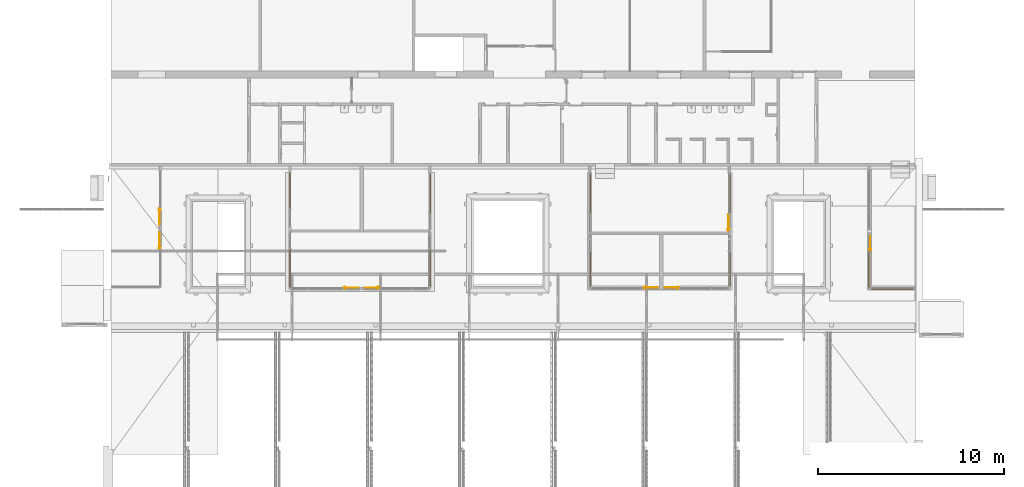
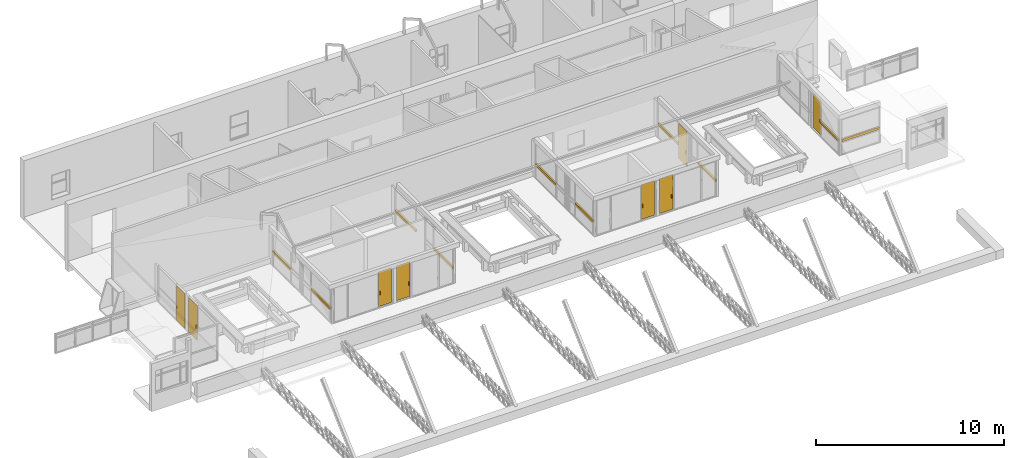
# One storey, part 148 of 153: 10 curtain walls, 8 doors, 16 elements without a shape of their own.
"""IFC4 building model written with IfcOpenShell, lengths in metres."""

from ifc_helpers import new_model, entity, si_unit, converted_unit, derived_unit, direction, frame, origin, place, context, subcontext, project, spatial, indexed_curve, outline, extrude, source, transform, mapped, material, constituent, constituent_set, type_object, type_shapes, element, aggregate, save


model = new_model("IFC4")

# Units and contexts
model_context = context("Model", 3, precision=1e-05, world=origin(), true_north=direction((6.123031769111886e-17, 1.0)))
body_context = subcontext(model_context, "Body", "Model", "MODEL_VIEW")
ifc_project = project(units=[si_unit("LENGTHUNIT", "METRE"), si_unit("AREAUNIT", "SQUARE_METRE"), si_unit("VOLUMEUNIT", "CUBIC_METRE"), converted_unit("PLANEANGLEUNIT", "DEGREE", entity("IfcRatioMeasure", 0.017453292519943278), si_unit("PLANEANGLEUNIT", "RADIAN"), dimensions=[0, 0, 0, 0, 0, 0, 0]), si_unit("MASSUNIT", "GRAM", prefix="KILO"), derived_unit("MASSDENSITYUNIT", [(si_unit("MASSUNIT", "GRAM", prefix="KILO"), 1), (si_unit("LENGTHUNIT", "METRE"), -3)]), derived_unit("MOMENTOFINERTIAUNIT", [(si_unit("LENGTHUNIT", "METRE"), 4)]), si_unit("TIMEUNIT", "SECOND"), si_unit("FREQUENCYUNIT", "HERTZ"), si_unit("THERMODYNAMICTEMPERATUREUNIT", "DEGREE_CELSIUS"), derived_unit("THERMALTRANSMITTANCEUNIT", [(si_unit("MASSUNIT", "GRAM", prefix="KILO"), 1), (si_unit("THERMODYNAMICTEMPERATUREUNIT", "KELVIN"), -1), (si_unit("TIMEUNIT", "SECOND"), -3)]), derived_unit("VOLUMETRICFLOWRATEUNIT", [(si_unit("LENGTHUNIT", "METRE"), 3), (si_unit("TIMEUNIT", "SECOND"), -1)]), derived_unit("MASSFLOWRATEUNIT", [(si_unit("MASSUNIT", "GRAM", prefix="KILO"), 1), (si_unit("TIMEUNIT", "SECOND"), -1)]), derived_unit("ROTATIONALFREQUENCYUNIT", [(si_unit("TIMEUNIT", "SECOND"), -1)]), si_unit("ELECTRICCURRENTUNIT", "AMPERE"), si_unit("ELECTRICVOLTAGEUNIT", "VOLT"), si_unit("POWERUNIT", "WATT"), si_unit("FORCEUNIT", "NEWTON", prefix="KILO"), si_unit("ILLUMINANCEUNIT", "LUX"), si_unit("LUMINOUSFLUXUNIT", "LUMEN"), si_unit("LUMINOUSINTENSITYUNIT", "CANDELA"), derived_unit("USERDEFINED", [(si_unit("MASSUNIT", "GRAM", prefix="KILO"), -1), (si_unit("LENGTHUNIT", "METRE"), -2), (si_unit("TIMEUNIT", "SECOND"), 3), (si_unit("LUMINOUSFLUXUNIT", "LUMEN"), 1)]), derived_unit("SOUNDPOWERUNIT", [(si_unit("MASSUNIT", "GRAM", prefix="KILO"), 1), (si_unit("LENGTHUNIT", "METRE"), 2), (si_unit("TIMEUNIT", "SECOND"), -3)]), derived_unit("SOUNDPRESSUREUNIT", [(si_unit("MASSUNIT", "GRAM", prefix="KILO"), 1), (si_unit("LENGTHUNIT", "METRE"), -1), (si_unit("TIMEUNIT", "SECOND"), -2)]), derived_unit("LINEARVELOCITYUNIT", [(si_unit("LENGTHUNIT", "METRE"), 1), (si_unit("TIMEUNIT", "SECOND"), -1)]), si_unit("PRESSUREUNIT", "PASCAL"), derived_unit("USERDEFINED", [(si_unit("LENGTHUNIT", "METRE"), -2), (si_unit("MASSUNIT", "GRAM", prefix="KILO"), 1), (si_unit("TIMEUNIT", "SECOND"), -2)]), derived_unit("LINEARFORCEUNIT", [(si_unit("MASSUNIT", "GRAM", prefix="KILO"), 1), (si_unit("LENGTHUNIT", "METRE"), 1), (si_unit("TIMEUNIT", "SECOND"), -2), (si_unit("LENGTHUNIT", "METRE"), -1)]), derived_unit("PLANARFORCEUNIT", [(si_unit("MASSUNIT", "GRAM", prefix="KILO"), 1), (si_unit("LENGTHUNIT", "METRE"), 1), (si_unit("TIMEUNIT", "SECOND"), -2), (si_unit("LENGTHUNIT", "METRE"), -2)])], contexts=[model_context])

# Site, building, storey
site_placement = place(None, origin())
site = spatial("IfcSite", under=ifc_project, at=site_placement, Name="Superficie", CompositionType="ELEMENT")
building_placement = place(site_placement, origin())
building = spatial("IfcBuilding", under=site, at=building_placement, CompositionType="ELEMENT")
storey_placement = place(building_placement, frame((0.0, 0.0, 3.5999999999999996)))
storey = spatial("IfcBuildingStorey", under=building, at=storey_placement, Name="Nivel 1", CompositionType="ELEMENT", Elevation=3.5999999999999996)

# Curtain walls
curtain_wall_type_1 = type_object("IfcCurtainWallType", Name="Muro cortina:Muro cortina - simple", PredefinedType="NOTDEFINED")
curtain_wall_1_placement = place(storey_placement, frame((0.0, 0.0, -3.5999999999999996)))
curtain_wall_1 = element("IfcCurtainWall", 1, at=curtain_wall_1_placement, inside=storey, type_object=curtain_wall_type_1, Name="Muro cortina:Muro cortina - simple", ObjectType="Muro cortina:Muro cortina - simple", PredefinedType="NOTDEFINED")
ifc_material_1 = material(Name="<Unnamed>")
curtain_wall_type_2 = type_object("IfcCurtainWallType", Name="Muro básico:Por defecto - 10 cm", PredefinedType="NOTDEFINED")
curtain_wall_2_placement = place(storey_placement, frame((18.22679901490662, -0.9636067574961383, 0.855)))
curtain_wall_2 = element("IfcCurtainWall", 2, at=curtain_wall_2_placement, type_object=curtain_wall_type_2, material=ifc_material_1, Name="Muro básico:Por defecto - 10 cm", ObjectType="Muro básico:Por defecto - 10 cm", PredefinedType="NOTDEFINED", context=body_context, shape_type="SweptSolid", body=[
    extrude(outline(indexed_curve([(2.2950000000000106, 0.049999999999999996), (-1.6196730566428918e-16, 0.05), (1.6196730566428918e-16, -0.05), (2.2950000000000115, -0.05000000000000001), (2.2950000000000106, 0.049999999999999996)], self_intersect=False)), origin(), (0.0, 0.0, 1.0), 0.15000000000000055),
])
aggregate(curtain_wall_1, [curtain_wall_2])

curtain_wall_3_placement = place(storey_placement, frame((0.0, 0.0, -3.5999999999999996)))
curtain_wall_3 = element("IfcCurtainWall", 3, at=curtain_wall_3_placement, inside=storey, type_object=curtain_wall_type_1, Name="Muro cortina:Muro cortina - simple", ObjectType="Muro cortina:Muro cortina - simple", PredefinedType="NOTDEFINED")
curtain_wall_4_placement = place(storey_placement, frame((18.12679901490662, -0.8847671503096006, 0.855), z_axis=(0.0, 0.0, 1.0), x_axis=(0.0, 1.0, 0.0)))
curtain_wall_4 = element("IfcCurtainWall", 4, at=curtain_wall_4_placement, type_object=curtain_wall_type_2, material=ifc_material_1, Name="Muro básico:Por defecto - 10 cm", ObjectType="Muro básico:Por defecto - 10 cm", PredefinedType="NOTDEFINED", context=body_context, shape_type="SweptSolid", body=[
    extrude(outline(indexed_curve([(1.8950000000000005, 0.04999999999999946), (0.0, 0.04999999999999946), (0.0, -0.04999999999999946), (1.8950000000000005, -0.04999999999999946), (1.8950000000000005, 0.04999999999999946)], self_intersect=False)), origin(), (0.0, 0.0, 1.0), 0.15000000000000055),
])

curtain_wall_5_placement = place(storey_placement, frame((0.0, 0.0, -3.5999999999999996)))
curtain_wall_5 = element("IfcCurtainWall", 5, at=curtain_wall_5_placement, inside=storey, type_object=curtain_wall_type_1, Name="Muro cortina:Muro cortina - simple", ObjectType="Muro cortina:Muro cortina - simple", PredefinedType="NOTDEFINED")
curtain_wall_6_placement = place(storey_placement, frame((10.596799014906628, -0.8729168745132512, 0.855), z_axis=(0.0, 0.0, 1.0), x_axis=(0.0, 1.0, 0.0)))
curtain_wall_6 = element("IfcCurtainWall", 6, at=curtain_wall_6_placement, type_object=curtain_wall_type_2, material=ifc_material_1, Name="Muro básico:Por defecto - 10 cm", ObjectType="Muro básico:Por defecto - 10 cm", PredefinedType="NOTDEFINED", context=body_context, shape_type="SweptSolid", body=[
    extrude(outline(indexed_curve([(1.8950000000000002, 0.04999999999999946), (0.0, 0.04999999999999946), (0.0, -0.04999999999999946), (1.8950000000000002, -0.04999999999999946), (1.8950000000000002, 0.04999999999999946)], self_intersect=False)), origin(), (0.0, 0.0, 1.0), 0.15000000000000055),
])
aggregate(curtain_wall_5, [curtain_wall_6])

curtain_wall_7_placement = place(storey_placement, frame((0.0, 0.0, -3.5999999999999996)))
curtain_wall_7 = element("IfcCurtainWall", 7, at=curtain_wall_7_placement, inside=storey, type_object=curtain_wall_type_1, Name="Muro cortina:Muro cortina - simple", ObjectType="Muro cortina:Muro cortina - simple", PredefinedType="NOTDEFINED")
curtain_wall_8_placement = place(storey_placement, frame((10.596799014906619, 3.0820831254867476, 0.855), z_axis=(0.0, 0.0, 1.0), x_axis=(0.0, 1.0, 0.0)))
curtain_wall_8 = element("IfcCurtainWall", 8, at=curtain_wall_8_placement, type_object=curtain_wall_type_2, material=ifc_material_1, Name="Muro básico:Por defecto - 10 cm", ObjectType="Muro básico:Por defecto - 10 cm", PredefinedType="NOTDEFINED", context=body_context, shape_type="SweptSolid", body=[
    extrude(outline(indexed_curve([(2.1443101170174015, 0.049999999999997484), (6.015928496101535e-17, 0.04999999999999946), (-6.015928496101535e-17, -0.04999999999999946), (2.1443101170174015, -0.05000000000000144), (2.1443101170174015, 0.049999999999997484)], self_intersect=False)), origin(), (0.0, 0.0, 1.0), 0.15000000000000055),
])

curtain_wall_9_placement = place(storey_placement, frame((0.0, 0.0, -3.5999999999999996)))
curtain_wall_9 = element("IfcCurtainWall", 9, at=curtain_wall_9_placement, inside=storey, type_object=curtain_wall_type_1, Name="Muro cortina:Muro cortina - simple", ObjectType="Muro cortina:Muro cortina - simple", PredefinedType="NOTDEFINED")
curtain_wall_10_placement = place(storey_placement, frame((3.091799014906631, -0.8729168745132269, 0.855), z_axis=(0.0, 0.0, 1.0), x_axis=(0.0, 1.0, 0.0)))
curtain_wall_10 = element("IfcCurtainWall", 10, at=curtain_wall_10_placement, type_object=curtain_wall_type_2, material=ifc_material_1, Name="Muro básico:Por defecto - 10 cm", ObjectType="Muro básico:Por defecto - 10 cm", PredefinedType="NOTDEFINED", context=body_context, shape_type="SweptSolid", body=[
    extrude(outline(indexed_curve([(1.8950000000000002, 0.05), (0.0, 0.05), (0.0, -0.05), (1.8950000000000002, -0.05), (1.8950000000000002, 0.05)], self_intersect=False)), origin(), (0.0, 0.0, 1.0), 0.15000000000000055),
])
aggregate(curtain_wall_9, [curtain_wall_10])

curtain_wall_11_placement = place(storey_placement, frame((0.0, 0.0, -3.5999999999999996)))
curtain_wall_11 = element("IfcCurtainWall", 11, at=curtain_wall_11_placement, inside=storey, type_object=curtain_wall_type_1, Name="Muro cortina:Muro cortina - simple", ObjectType="Muro cortina:Muro cortina - simple", PredefinedType="NOTDEFINED")
curtain_wall_12_placement = place(storey_placement, frame((3.0917990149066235, 3.0820831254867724, 0.855), z_axis=(0.0, 0.0, 1.0), x_axis=(0.0, 1.0, 0.0)))
curtain_wall_12 = element("IfcCurtainWall", 12, at=curtain_wall_12_placement, type_object=curtain_wall_type_2, material=ifc_material_1, Name="Muro básico:Por defecto - 10 cm", ObjectType="Muro básico:Por defecto - 10 cm", PredefinedType="NOTDEFINED", context=body_context, shape_type="SweptSolid", body=[
    extrude(outline(indexed_curve([(2.144310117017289, 0.05000000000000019), (6.015928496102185e-17, 0.05), (-6.015928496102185e-17, -0.05), (2.144310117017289, -0.049999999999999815), (2.144310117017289, 0.05000000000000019)], self_intersect=False)), origin(), (0.0, 0.0, 1.0), 0.15000000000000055),
])
aggregate(curtain_wall_11, [curtain_wall_12])

curtain_wall_13_placement = place(storey_placement, frame((0.0, 0.0, -3.5999999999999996)))
curtain_wall_13 = element("IfcCurtainWall", 13, at=curtain_wall_13_placement, inside=storey, type_object=curtain_wall_type_1, Name="Muro cortina:Muro cortina - simple", ObjectType="Muro cortina:Muro cortina - simple", PredefinedType="NOTDEFINED")
curtain_wall_14_placement = place(storey_placement, frame((-5.5182009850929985, -0.884767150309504, 0.855), z_axis=(0.0, 0.0, 1.0), x_axis=(0.0, 1.0, 0.0)))
curtain_wall_14 = element("IfcCurtainWall", 14, at=curtain_wall_14_placement, type_object=curtain_wall_type_2, material=ifc_material_1, Name="Muro básico:Por defecto - 10 cm", ObjectType="Muro básico:Por defecto - 10 cm", PredefinedType="NOTDEFINED", context=body_context, shape_type="SweptSolid", body=[
    extrude(outline(indexed_curve([(2.04116039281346, 0.04999999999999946), (0.0, 0.04999999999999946), (0.0, -0.04999999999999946), (2.04116039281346, -0.04999999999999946), (2.04116039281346, 0.04999999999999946)], self_intersect=False)), origin(), (0.0, 0.0, 1.0), 0.15000000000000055),
])
aggregate(curtain_wall_13, [curtain_wall_14])

curtain_wall_15_placement = place(storey_placement, frame((0.0, 0.0, -3.5999999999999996)))
curtain_wall_15 = element("IfcCurtainWall", 15, at=curtain_wall_15_placement, inside=storey, type_object=curtain_wall_type_1, Name="Muro cortina:Muro cortina - simple", ObjectType="Muro cortina:Muro cortina - simple", PredefinedType="NOTDEFINED")
curtain_wall_16_placement = place(storey_placement, frame((-5.51320098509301, 3.0702328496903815, 0.855), z_axis=(0.0, 0.0, 1.0), x_axis=(0.0, 1.0, 0.0)))
curtain_wall_16 = element("IfcCurtainWall", 16, at=curtain_wall_16_placement, type_object=curtain_wall_type_2, material=ifc_material_1, Name="Muro básico:Por defecto - 10 cm", ObjectType="Muro básico:Por defecto - 10 cm", PredefinedType="NOTDEFINED", context=body_context, shape_type="SweptSolid", body=[
    extrude(outline(indexed_curve([(2.156160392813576, 0.05000000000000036), (6.556222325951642e-17, 0.050000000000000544), (-6.556222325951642e-17, -0.050000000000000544), (2.156160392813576, -0.05000000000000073), (2.156160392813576, 0.05000000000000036)], self_intersect=False)), origin(), (0.0, 0.0, 1.0), 0.15000000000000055),
])
aggregate(curtain_wall_15, [curtain_wall_16])

curtain_wall_17_placement = place(storey_placement, frame((0.0, 0.0, -3.5999999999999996)))
curtain_wall_17 = element("IfcCurtainWall", 17, at=curtain_wall_17_placement, inside=storey, type_object=curtain_wall_type_1, Name="Muro cortina:Muro cortina - simple", ObjectType="Muro cortina:Muro cortina - simple", PredefinedType="NOTDEFINED")
curtain_wall_18_placement = place(storey_placement, frame((-13.023200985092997, -0.8847671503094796, 0.855), z_axis=(0.0, 0.0, 1.0), x_axis=(0.0, 1.0, 0.0)))
curtain_wall_18 = element("IfcCurtainWall", 18, at=curtain_wall_18_placement, type_object=curtain_wall_type_2, material=ifc_material_1, Name="Muro básico:Por defecto - 10 cm", ObjectType="Muro básico:Por defecto - 10 cm", PredefinedType="NOTDEFINED", context=body_context, shape_type="SweptSolid", body=[
    extrude(outline(indexed_curve([(2.0461603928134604, 0.04999999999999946), (0.0, 0.04999999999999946), (0.0, -0.04999999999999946), (2.0461603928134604, -0.04999999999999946), (2.0461603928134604, 0.04999999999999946)], self_intersect=False)), origin(), (0.0, 0.0, 1.0), 0.15000000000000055),
])
aggregate(curtain_wall_17, [curtain_wall_18])

curtain_wall_19_placement = place(storey_placement, frame((0.0, 0.0, -3.5999999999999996)))
curtain_wall_19 = element("IfcCurtainWall", 19, at=curtain_wall_19_placement, inside=storey, type_object=curtain_wall_type_1, Name="Muro cortina:Muro cortina - simple", ObjectType="Muro cortina:Muro cortina - simple", PredefinedType="NOTDEFINED")
curtain_wall_20_placement = place(storey_placement, frame((-13.023200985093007, 3.3513932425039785, 0.855), z_axis=(0.0, 0.0, 1.0), x_axis=(0.0, 1.0, 0.0)))
curtain_wall_20 = element("IfcCurtainWall", 20, at=curtain_wall_20_placement, type_object=curtain_wall_type_2, material=ifc_material_1, Name="Muro básico:Por defecto - 10 cm", ObjectType="Muro básico:Por defecto - 10 cm", PredefinedType="NOTDEFINED", context=body_context, shape_type="SweptSolid", body=[
    extrude(outline(indexed_curve([(1.880000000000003, 0.0499999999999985), (6.015928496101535e-17, 0.04999999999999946), (-6.015928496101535e-17, -0.04999999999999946), (1.880000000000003, -0.050000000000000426), (1.880000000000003, 0.0499999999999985)], self_intersect=False)), origin(), (0.0, 0.0, 1.0), 0.15000000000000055),
])
aggregate(curtain_wall_19, [curtain_wall_20])

# Door
ifc_material_2 = material(Name="Metal - Aluminio", Category="Metal")
ifc_constituent_1 = constituent(ifc_material_2, Name="Metal - Aluminio", Category="Metal")
ifc_material_3 = material(Name="Vidrio", Category="Vidrio")
ifc_constituent_2 = constituent(ifc_material_3, Name="Vidrio", Category="Vidrio")
ifc_constituent_set_1 = constituent_set(constituents=[ifc_constituent_1, ifc_constituent_2], Name="MaterialConstituentSet")
ifc_constituent_3 = constituent(ifc_material_2, Name="Marco/montante", Category="Metal")
ifc_constituent_4 = constituent(ifc_material_3, Name="Panel", Category="Vidrio")
ifc_constituent_set_2 = constituent_set(constituents=[ifc_constituent_3, ifc_constituent_4], Name="MaterialConstituentSet")
door_type_1 = type_object("IfcDoorType", Name="Puerta de cristal abatible en muro cortina:Puerta de cristal abatible en muro cortina", OperationType="NOTDEFINED", PredefinedType="DOOR", material=ifc_constituent_set_2)
shared_shape_1 = source(origin(), body_context, "Body", "SweptSolid", [
    extrude(outline(indexed_curve([(-0.012700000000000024, -0.0254), (0.012700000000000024, -0.0254), (0.012700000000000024, 0.0254), (-0.012700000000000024, 0.0254), (-0.012700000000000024, -0.0254)], self_intersect=False)), frame((0.3360999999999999, 0.012900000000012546, 0.7619999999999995)), (0.0, 0.0, 1.0), 0.22860000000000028),
    extrude(outline(indexed_curve([(-0.012699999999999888, -0.025399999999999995), (0.01269999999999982, -0.025399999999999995), (0.01269999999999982, 0.025400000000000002), (-0.012699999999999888, 0.025400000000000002), (-0.012699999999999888, -0.025399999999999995)], self_intersect=False)), frame((0.33610000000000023, 0.07640000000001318, 0.762), z_axis=(0.0, 0.0, 1.0), x_axis=(-1.0, 0.0, 0.0)), (0.0, 0.0, 1.0), 0.22860000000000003),
    extrude(outline(indexed_curve([(-0.006350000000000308, -0.4250000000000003), (0.006350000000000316, -0.4250000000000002), (0.006350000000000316, 0.4250000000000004), (-0.006350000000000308, 0.4250000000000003), (-0.006350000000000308, -0.4250000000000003)], self_intersect=False)), frame((0.0, 0.04465000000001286, 0.0), z_axis=(0.0, 0.0, 1.0), x_axis=(0.0, -1.0, 0.0)), (0.0, 0.0, 1.0), 2.235),
])
type_shapes(door_type_1, [shared_shape_1])
door_1_placement = place(curtain_wall_3_placement, frame((18.12679901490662, 1.4852328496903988, 3.6449999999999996), z_axis=(0.0, 0.0, 1.0), x_axis=(0.0, -1.0, 0.0)))
door_1 = element("IfcDoor", 21, at=door_1_placement, type_object=door_type_1, material=ifc_constituent_set_1, Name="Puerta de cristal abatible en muro cortina:Puerta de cristal abatible en muro cortina", ObjectType="Puerta de cristal abatible en muro cortina:Puerta de cristal abatible en muro cortina", OperationType="NOTDEFINED", OverallHeight=2.235, OverallWidth=0.8500000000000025, PredefinedType="DOOR", context=body_context, shape_type="MappedRepresentation", body=[
    mapped(shared_shape_1, transform((0.0, 0.0, 0.0), scale=1.0)),
])

aggregate(curtain_wall_3, [door_1, curtain_wall_4])

ifc_constituent_5 = constituent(ifc_material_2, Name="Metal - Aluminio", Category="Metal")
ifc_constituent_6 = constituent(ifc_material_3, Name="Vidrio", Category="Vidrio")
ifc_constituent_set_3 = constituent_set(constituents=[ifc_constituent_5, ifc_constituent_6], Name="MaterialConstituentSet")
ifc_constituent_7 = constituent(ifc_material_2, Name="Marco/montante", Category="Metal")
ifc_constituent_8 = constituent(ifc_material_3, Name="Panel", Category="Vidrio")
ifc_constituent_set_4 = constituent_set(constituents=[ifc_constituent_7, ifc_constituent_8], Name="MaterialConstituentSet")
door_type_2 = type_object("IfcDoorType", Name="Puerta de cristal abatible en muro cortina:Puerta de cristal abatible en muro cortina", OperationType="NOTDEFINED", PredefinedType="DOOR", material=ifc_constituent_set_4)
shared_shape_2 = source(origin(), body_context, "Body", "SweptSolid", [
    extrude(outline(indexed_curve([(-0.0254, -0.012700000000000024), (0.0254, -0.012700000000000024), (0.0254, 0.012700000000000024), (-0.0254, 0.012700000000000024), (-0.0254, -0.012700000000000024)], self_intersect=False)), frame((-0.3660999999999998, 0.012900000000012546, 0.7619999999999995), z_axis=(0.0, 0.0, 1.0), x_axis=(0.0, 1.0, 0.0)), (0.0, 0.0, 1.0), 0.22860000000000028),
    extrude(outline(indexed_curve([(-0.025399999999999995, -0.012699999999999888), (0.025400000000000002, -0.012699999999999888), (0.025400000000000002, 0.01269999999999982), (-0.025399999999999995, 0.01269999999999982), (-0.025399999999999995, -0.012699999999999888)], self_intersect=False)), frame((-0.36610000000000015, 0.07640000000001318, 0.762), z_axis=(0.0, 0.0, 1.0), x_axis=(0.0, -1.0, 0.0)), (0.0, 0.0, 1.0), 0.22860000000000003),
    extrude(outline(indexed_curve([(-0.45500000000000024, -0.006350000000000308), (0.45500000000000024, -0.006350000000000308), (0.45500000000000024, 0.006350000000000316), (-0.45500000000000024, 0.006350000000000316), (-0.45500000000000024, -0.006350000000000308)], self_intersect=False)), frame((0.0, 0.04465000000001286, 0.0), z_axis=(0.0, 0.0, 1.0), x_axis=(-1.0, 0.0, 0.0)), (0.0, 0.0, 1.0), 2.2549999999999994),
])
type_shapes(door_type_2, [shared_shape_2])
door_2_placement = place(curtain_wall_7_placement, frame((10.596799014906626, 2.577083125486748, 3.6449999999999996), z_axis=(0.0, 0.0, 1.0), x_axis=(0.0, 1.0, 0.0)))
door_2 = element("IfcDoor", 22, at=door_2_placement, type_object=door_type_2, material=ifc_constituent_set_3, Name="Puerta de cristal abatible en muro cortina:Puerta de cristal abatible en muro cortina", ObjectType="Puerta de cristal abatible en muro cortina:Puerta de cristal abatible en muro cortina", OperationType="NOTDEFINED", OverallHeight=2.2549999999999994, OverallWidth=0.9100000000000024, PredefinedType="DOOR", context=body_context, shape_type="MappedRepresentation", body=[
    mapped(shared_shape_2, transform((0.0, 0.0, 0.0), scale=1.0)),
])

aggregate(curtain_wall_7, [door_2, curtain_wall_8])

# Curtain wall, door
curtain_wall_21_placement = place(storey_placement, frame((0.0, 0.0, -3.5999999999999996)))
curtain_wall_21 = element("IfcCurtainWall", 23, at=curtain_wall_21_placement, inside=storey, type_object=curtain_wall_type_1, Name="Muro cortina:Muro cortina - simple", ObjectType="Muro cortina:Muro cortina - simple", PredefinedType="NOTDEFINED")
ifc_constituent_9 = constituent(ifc_material_2, Name="Metal - Aluminio", Category="Metal")
ifc_constituent_10 = constituent(ifc_material_3, Name="Vidrio", Category="Vidrio")
ifc_constituent_set_5 = constituent_set(constituents=[ifc_constituent_9, ifc_constituent_10], Name="MaterialConstituentSet")
ifc_constituent_11 = constituent(ifc_material_2, Name="Marco/montante", Category="Metal")
ifc_constituent_12 = constituent(ifc_material_3, Name="Panel", Category="Vidrio")
ifc_constituent_set_6 = constituent_set(constituents=[ifc_constituent_11, ifc_constituent_12], Name="MaterialConstituentSet")
door_type_3 = type_object("IfcDoorType", Name="Puerta de cristal abatible en muro cortina:Puerta de cristal abatible en muro cortina", OperationType="NOTDEFINED", PredefinedType="DOOR", material=ifc_constituent_set_6)
shared_shape_3 = source(origin(), body_context, "Body", "SweptSolid", [
    extrude(outline(indexed_curve([(-0.012700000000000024, -0.0254), (0.012700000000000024, -0.0254), (0.012700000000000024, 0.0254), (-0.012700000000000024, 0.0254), (-0.012700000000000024, -0.0254)], self_intersect=False)), frame((0.3235999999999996, 0.012900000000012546, 0.7619999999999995)), (0.0, 0.0, 1.0), 0.22860000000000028),
    extrude(outline(indexed_curve([(-0.012699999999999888, -0.025399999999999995), (0.01269999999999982, -0.025399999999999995), (0.01269999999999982, 0.025400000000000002), (-0.012699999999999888, 0.025400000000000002), (-0.012699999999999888, -0.025399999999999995)], self_intersect=False)), frame((0.32359999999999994, 0.07640000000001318, 0.762), z_axis=(0.0, 0.0, 1.0), x_axis=(-1.0, 0.0, 0.0)), (0.0, 0.0, 1.0), 0.22860000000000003),
    extrude(outline(indexed_curve([(-0.006350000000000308, -0.41250000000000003), (0.006350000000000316, -0.4125), (0.006350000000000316, 0.4125000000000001), (-0.006350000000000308, 0.41250000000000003), (-0.006350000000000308, -0.41250000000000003)], self_intersect=False)), frame((0.0, 0.04465000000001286, 0.0), z_axis=(0.0, 0.0, 1.0), x_axis=(0.0, -1.0, 0.0)), (0.0, 0.0, 1.0), 2.250000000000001),
])
type_shapes(door_type_3, [shared_shape_3])
door_3_placement = place(curtain_wall_21_placement, frame((7.504299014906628, -0.9517564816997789, 3.6499999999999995)))
door_3 = element("IfcDoor", 24, at=door_3_placement, type_object=door_type_3, material=ifc_constituent_set_5, Name="Puerta de cristal abatible en muro cortina:Puerta de cristal abatible en muro cortina", ObjectType="Puerta de cristal abatible en muro cortina:Puerta de cristal abatible en muro cortina", OperationType="NOTDEFINED", OverallHeight=2.250000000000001, OverallWidth=0.825000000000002, PredefinedType="DOOR", context=body_context, shape_type="MappedRepresentation", body=[
    mapped(shared_shape_3, transform((0.0, 0.0, 0.0), scale=1.0)),
])
aggregate(curtain_wall_21, [door_3])

curtain_wall_22_placement = place(storey_placement, frame((0.0, 0.0, -3.5999999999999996)))
curtain_wall_22 = element("IfcCurtainWall", 25, at=curtain_wall_22_placement, inside=storey, type_object=curtain_wall_type_1, Name="Muro cortina:Muro cortina - simple", ObjectType="Muro cortina:Muro cortina - simple", PredefinedType="NOTDEFINED")
ifc_constituent_13 = constituent(ifc_material_2, Name="Metal - Aluminio", Category="Metal")
ifc_constituent_14 = constituent(ifc_material_3, Name="Vidrio", Category="Vidrio")
ifc_constituent_set_7 = constituent_set(constituents=[ifc_constituent_13, ifc_constituent_14], Name="MaterialConstituentSet")
door_4_placement = place(curtain_wall_22_placement, frame((-8.610700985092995, -0.9636067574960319, 3.6499999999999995)))
door_4 = element("IfcDoor", 26, at=door_4_placement, type_object=door_type_3, material=ifc_constituent_set_7, Name="Puerta de cristal abatible en muro cortina:Puerta de cristal abatible en muro cortina", ObjectType="Puerta de cristal abatible en muro cortina:Puerta de cristal abatible en muro cortina", OperationType="NOTDEFINED", OverallHeight=2.250000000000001, OverallWidth=0.825000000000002, PredefinedType="DOOR", context=body_context, shape_type="MappedRepresentation", body=[
    mapped(shared_shape_3, transform((0.0, 0.0, 0.0), scale=1.0)),
])
aggregate(curtain_wall_22, [door_4])

curtain_wall_23_placement = place(storey_placement, frame((0.0, 0.0, -3.5999999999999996)))
curtain_wall_23 = element("IfcCurtainWall", 27, at=curtain_wall_23_placement, inside=storey, type_object=curtain_wall_type_1, Name="Muro cortina:Muro cortina - simple", ObjectType="Muro cortina:Muro cortina - simple", PredefinedType="NOTDEFINED")
ifc_constituent_15 = constituent(ifc_material_2, Name="Metal - Aluminio", Category="Metal")
ifc_constituent_16 = constituent(ifc_material_3, Name="Vidrio", Category="Vidrio")
ifc_constituent_set_8 = constituent_set(constituents=[ifc_constituent_15, ifc_constituent_16], Name="MaterialConstituentSet")
ifc_constituent_17 = constituent(ifc_material_2, Name="Marco/montante", Category="Metal")
ifc_constituent_18 = constituent(ifc_material_3, Name="Panel", Category="Vidrio")
ifc_constituent_set_9 = constituent_set(constituents=[ifc_constituent_17, ifc_constituent_18], Name="MaterialConstituentSet")
door_type_4 = type_object("IfcDoorType", Name="Puerta de cristal abatible en muro cortina:Puerta de cristal abatible en muro cortina", OperationType="NOTDEFINED", PredefinedType="DOOR", material=ifc_constituent_set_9)
shared_shape_4 = source(origin(), body_context, "Body", "SweptSolid", [
    extrude(outline(indexed_curve([(-0.0254, -0.012700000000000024), (0.0254, -0.012700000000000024), (0.0254, 0.012700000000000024), (-0.0254, 0.012700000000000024), (-0.0254, -0.012700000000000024)], self_intersect=False)), frame((-0.3235999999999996, 0.012900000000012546, 0.7619999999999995), z_axis=(0.0, 0.0, 1.0), x_axis=(0.0, 1.0, 0.0)), (0.0, 0.0, 1.0), 0.22860000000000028),
    extrude(outline(indexed_curve([(-0.025399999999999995, -0.012699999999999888), (0.025400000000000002, -0.012699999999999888), (0.025400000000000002, 0.01269999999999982), (-0.025399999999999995, 0.01269999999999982), (-0.025399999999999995, -0.012699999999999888)], self_intersect=False)), frame((-0.32359999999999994, 0.07640000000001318, 0.762), z_axis=(0.0, 0.0, 1.0), x_axis=(0.0, -1.0, 0.0)), (0.0, 0.0, 1.0), 0.22860000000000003),
    extrude(outline(indexed_curve([(-0.41250000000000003, -0.006350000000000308), (0.41250000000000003, -0.006350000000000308), (0.41250000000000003, 0.006350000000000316), (-0.41250000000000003, 0.006350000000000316), (-0.41250000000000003, -0.006350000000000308)], self_intersect=False)), frame((0.0, 0.04465000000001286, 0.0), z_axis=(0.0, 0.0, 1.0), x_axis=(-1.0, 0.0, 0.0)), (0.0, 0.0, 1.0), 2.250000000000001),
])
type_shapes(door_type_4, [shared_shape_4])
door_5_placement = place(curtain_wall_23_placement, frame((6.3792990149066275, -0.9517564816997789, 3.6499999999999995)))
door_5 = element("IfcDoor", 28, at=door_5_placement, type_object=door_type_4, material=ifc_constituent_set_8, Name="Puerta de cristal abatible en muro cortina:Puerta de cristal abatible en muro cortina", ObjectType="Puerta de cristal abatible en muro cortina:Puerta de cristal abatible en muro cortina", OperationType="NOTDEFINED", OverallHeight=2.250000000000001, OverallWidth=0.825000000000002, PredefinedType="DOOR", context=body_context, shape_type="MappedRepresentation", body=[
    mapped(shared_shape_4, transform((0.0, 0.0, 0.0), scale=1.0)),
])
aggregate(curtain_wall_23, [door_5])

curtain_wall_24_placement = place(storey_placement, frame((0.0, 0.0, -3.5999999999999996)))
curtain_wall_24 = element("IfcCurtainWall", 29, at=curtain_wall_24_placement, inside=storey, type_object=curtain_wall_type_1, Name="Muro cortina:Muro cortina - simple", ObjectType="Muro cortina:Muro cortina - simple", PredefinedType="NOTDEFINED")
ifc_constituent_19 = constituent(ifc_material_2, Name="Metal - Aluminio", Category="Metal")
ifc_constituent_20 = constituent(ifc_material_3, Name="Vidrio", Category="Vidrio")
ifc_constituent_set_10 = constituent_set(constituents=[ifc_constituent_19, ifc_constituent_20], Name="MaterialConstituentSet")
door_6_placement = place(curtain_wall_24_placement, frame((-9.735700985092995, -0.9636067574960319, 3.6499999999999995)))
door_6 = element("IfcDoor", 30, at=door_6_placement, type_object=door_type_4, material=ifc_constituent_set_10, Name="Puerta de cristal abatible en muro cortina:Puerta de cristal abatible en muro cortina", ObjectType="Puerta de cristal abatible en muro cortina:Puerta de cristal abatible en muro cortina", OperationType="NOTDEFINED", OverallHeight=2.250000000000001, OverallWidth=0.825000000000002, PredefinedType="DOOR", context=body_context, shape_type="MappedRepresentation", body=[
    mapped(shared_shape_4, transform((0.0, 0.0, 0.0), scale=1.0)),
])
aggregate(curtain_wall_24, [door_6])

curtain_wall_25_placement = place(storey_placement, frame((0.0, 0.0, -3.5999999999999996)))
curtain_wall_25 = element("IfcCurtainWall", 31, at=curtain_wall_25_placement, inside=storey, type_object=curtain_wall_type_1, Name="Muro cortina:Muro cortina - simple", ObjectType="Muro cortina:Muro cortina - simple", PredefinedType="NOTDEFINED")
ifc_constituent_21 = constituent(ifc_material_2, Name="Metal - Aluminio", Category="Metal")
ifc_constituent_22 = constituent(ifc_material_3, Name="Vidrio", Category="Vidrio")
ifc_constituent_set_11 = constituent_set(constituents=[ifc_constituent_21, ifc_constituent_22], Name="MaterialConstituentSet")
ifc_constituent_23 = constituent(ifc_material_2, Name="Marco/montante", Category="Metal")
ifc_constituent_24 = constituent(ifc_material_3, Name="Panel", Category="Vidrio")
ifc_constituent_set_12 = constituent_set(constituents=[ifc_constituent_23, ifc_constituent_24], Name="MaterialConstituentSet")
door_type_5 = type_object("IfcDoorType", Name="Puerta de cristal abatible en muro cortina:Puerta de cristal abatible en muro cortina", OperationType="NOTDEFINED", PredefinedType="DOOR", material=ifc_constituent_set_12)
shared_shape_5 = source(origin(), body_context, "Body", "SweptSolid", [
    extrude(outline(indexed_curve([(-0.012700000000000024, -0.0254), (0.012700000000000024, -0.0254), (0.012700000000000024, 0.0254), (-0.012700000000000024, 0.0254), (-0.012700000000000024, -0.0254)], self_intersect=False)), frame((0.3860999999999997, 0.012900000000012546, 0.7619999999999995)), (0.0, 0.0, 1.0), 0.22860000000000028),
    extrude(outline(indexed_curve([(-0.012699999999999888, -0.025399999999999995), (0.01269999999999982, -0.025399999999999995), (0.01269999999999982, 0.025400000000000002), (-0.012699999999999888, 0.025400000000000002), (-0.012699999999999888, -0.025399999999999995)], self_intersect=False)), frame((0.38610000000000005, 0.07640000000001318, 0.762), z_axis=(0.0, 0.0, 1.0), x_axis=(-1.0, 0.0, 0.0)), (0.0, 0.0, 1.0), 0.22860000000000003),
    extrude(outline(indexed_curve([(-0.006350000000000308, -0.4750000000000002), (0.006350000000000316, -0.4750000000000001), (0.006350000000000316, 0.47500000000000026), (-0.006350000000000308, 0.4750000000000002), (-0.006350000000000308, -0.4750000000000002)], self_intersect=False)), frame((0.0, 0.04465000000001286, 0.0), z_axis=(0.0, 0.0, 1.0), x_axis=(0.0, -1.0, 0.0)), (0.0, 0.0, 1.0), 2.2499999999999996),
])
type_shapes(door_type_5, [shared_shape_5])
door_7_placement = place(curtain_wall_25_placement, frame((-19.993200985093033, 2.917083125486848, 3.6499999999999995), z_axis=(0.0, 0.0, 1.0), x_axis=(0.0, 1.0, 0.0)))
door_7 = element("IfcDoor", 32, at=door_7_placement, type_object=door_type_5, material=ifc_constituent_set_11, Name="Puerta de cristal abatible en muro cortina:Puerta de cristal abatible en muro cortina", ObjectType="Puerta de cristal abatible en muro cortina:Puerta de cristal abatible en muro cortina", OperationType="NOTDEFINED", OverallHeight=2.2499999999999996, OverallWidth=0.9500000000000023, PredefinedType="DOOR", context=body_context, shape_type="MappedRepresentation", body=[
    mapped(shared_shape_5, transform((0.0, 0.0, 0.0), scale=1.0)),
])
aggregate(curtain_wall_25, [door_7])

curtain_wall_26_placement = place(storey_placement, frame((0.0, 0.0, -3.5999999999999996)))
curtain_wall_26 = element("IfcCurtainWall", 33, at=curtain_wall_26_placement, inside=storey, type_object=curtain_wall_type_1, Name="Muro cortina:Muro cortina - simple", ObjectType="Muro cortina:Muro cortina - simple", PredefinedType="NOTDEFINED")
ifc_constituent_25 = constituent(ifc_material_2, Name="Metal - Aluminio", Category="Metal")
ifc_constituent_26 = constituent(ifc_material_3, Name="Vidrio", Category="Vidrio")
ifc_constituent_set_13 = constituent_set(constituents=[ifc_constituent_25, ifc_constituent_26], Name="MaterialConstituentSet")
ifc_constituent_27 = constituent(ifc_material_2, Name="Marco/montante", Category="Metal")
ifc_constituent_28 = constituent(ifc_material_3, Name="Panel", Category="Vidrio")
ifc_constituent_set_14 = constituent_set(constituents=[ifc_constituent_27, ifc_constituent_28], Name="MaterialConstituentSet")
door_type_6 = type_object("IfcDoorType", Name="Puerta de cristal abatible en muro cortina:Puerta de cristal abatible en muro cortina", OperationType="NOTDEFINED", PredefinedType="DOOR", material=ifc_constituent_set_14)
shared_shape_6 = source(origin(), body_context, "Body", "SweptSolid", [
    extrude(outline(indexed_curve([(-0.0254, -0.012700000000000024), (0.0254, -0.012700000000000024), (0.0254, 0.012700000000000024), (-0.0254, 0.012700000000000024), (-0.0254, -0.012700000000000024)], self_intersect=False)), frame((-0.3861, 0.012900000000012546, 0.7619999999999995), z_axis=(0.0, 0.0, 1.0), x_axis=(0.0, 1.0, 0.0)), (0.0, 0.0, 1.0), 0.22860000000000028),
    extrude(outline(indexed_curve([(-0.025399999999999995, -0.012699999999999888), (0.025400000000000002, -0.012699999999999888), (0.025400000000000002, 0.01269999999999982), (-0.025399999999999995, 0.01269999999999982), (-0.025399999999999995, -0.012699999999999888)], self_intersect=False)), frame((-0.38610000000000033, 0.07640000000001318, 0.762), z_axis=(0.0, 0.0, 1.0), x_axis=(0.0, -1.0, 0.0)), (0.0, 0.0, 1.0), 0.22860000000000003),
    extrude(outline(indexed_curve([(-0.4750000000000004, -0.006350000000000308), (0.4750000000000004, -0.006350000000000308), (0.4750000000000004, 0.006350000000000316), (-0.4750000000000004, 0.006350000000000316), (-0.4750000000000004, -0.006350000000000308)], self_intersect=False)), frame((0.0, 0.04465000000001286, 0.0), z_axis=(0.0, 0.0, 1.0), x_axis=(-1.0, 0.0, 0.0)), (0.0, 0.0, 1.0), 2.2499999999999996),
])
type_shapes(door_type_6, [shared_shape_6])
door_8_placement = place(curtain_wall_26_placement, frame((-19.993200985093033, 1.6170831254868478, 3.6499999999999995), z_axis=(0.0, 0.0, 1.0), x_axis=(0.0, 1.0, 0.0)))
door_8 = element("IfcDoor", 34, at=door_8_placement, type_object=door_type_6, material=ifc_constituent_set_13, Name="Puerta de cristal abatible en muro cortina:Puerta de cristal abatible en muro cortina", ObjectType="Puerta de cristal abatible en muro cortina:Puerta de cristal abatible en muro cortina", OperationType="NOTDEFINED", OverallHeight=2.2499999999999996, OverallWidth=0.9500000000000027, PredefinedType="DOOR", context=body_context, shape_type="MappedRepresentation", body=[
    mapped(shared_shape_6, transform((0.0, 0.0, 0.0), scale=1.0)),
])
aggregate(curtain_wall_26, [door_8])

save(model, "model.ifc")
